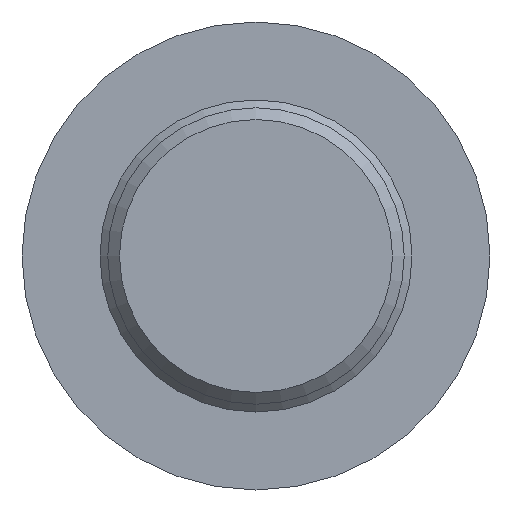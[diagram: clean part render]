
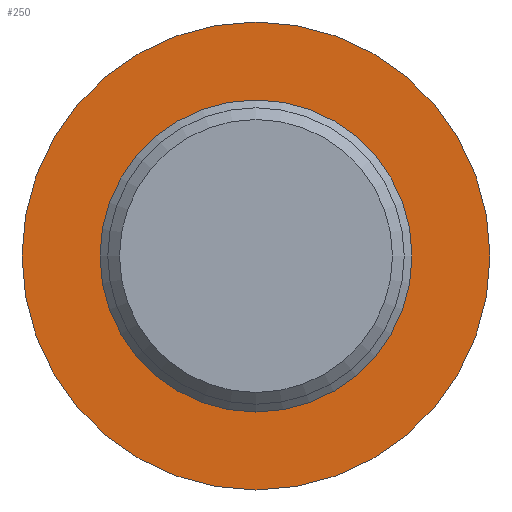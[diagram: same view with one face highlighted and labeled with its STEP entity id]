
A CAD part, front view. The second image highlights one B-rep face of the part: STEP entity #250.
In plain terms, the highlighted planar face has unit normal (0, -1, 0).
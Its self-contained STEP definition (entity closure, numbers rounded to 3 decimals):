
#17=FACE_BOUND('',#61,.T.);
#30=PLANE('',#303);
#43=FACE_OUTER_BOUND('',#60,.T.);
#60=EDGE_LOOP('',(#214,#215));
#61=EDGE_LOOP('',(#216,#217));
#100=CIRCLE('',#301,4.);
#101=CIRCLE('',#302,4.);
#102=CIRCLE('',#304,6.);
#103=CIRCLE('',#305,6.);
#126=VERTEX_POINT('',#456);
#127=VERTEX_POINT('',#457);
#128=VERTEX_POINT('',#462);
#129=VERTEX_POINT('',#463);
#157=EDGE_CURVE('',#126,#127,#100,.T.);
#158=EDGE_CURVE('',#127,#126,#101,.T.);
#160=EDGE_CURVE('',#128,#129,#102,.T.);
#161=EDGE_CURVE('',#129,#128,#103,.T.);
#214=ORIENTED_EDGE('',*,*,#160,.F.);
#215=ORIENTED_EDGE('',*,*,#161,.F.);
#216=ORIENTED_EDGE('',*,*,#157,.T.);
#217=ORIENTED_EDGE('',*,*,#158,.T.);
#250=ADVANCED_FACE('',(#43,#17),#30,.T.);
#301=AXIS2_PLACEMENT_3D('',#458,#375,#376);
#302=AXIS2_PLACEMENT_3D('',#459,#377,#378);
#303=AXIS2_PLACEMENT_3D('',#461,#380,#381);
#304=AXIS2_PLACEMENT_3D('',#464,#382,#383);
#305=AXIS2_PLACEMENT_3D('',#465,#384,#385);
#375=DIRECTION('center_axis',(0.,1.,0.));
#376=DIRECTION('ref_axis',(1.,0.,0.));
#377=DIRECTION('center_axis',(0.,1.,0.));
#378=DIRECTION('ref_axis',(1.,0.,0.));
#380=DIRECTION('center_axis',(0.,-1.,0.));
#381=DIRECTION('ref_axis',(0.,0.,-1.));
#382=DIRECTION('center_axis',(0.,1.,0.));
#383=DIRECTION('ref_axis',(1.,0.,0.));
#384=DIRECTION('center_axis',(0.,1.,0.));
#385=DIRECTION('ref_axis',(1.,0.,0.));
#456=CARTESIAN_POINT('',(0.,-640.,4.));
#457=CARTESIAN_POINT('',(0.,-640.,-4.));
#458=CARTESIAN_POINT('Origin',(0.,-640.,0.));
#459=CARTESIAN_POINT('Origin',(0.,-640.,0.));
#461=CARTESIAN_POINT('Origin',(0.,-640.,6.));
#462=CARTESIAN_POINT('',(0.,-640.,6.));
#463=CARTESIAN_POINT('',(0.,-640.,-6.));
#464=CARTESIAN_POINT('Origin',(0.,-640.,0.));
#465=CARTESIAN_POINT('Origin',(0.,-640.,0.));
